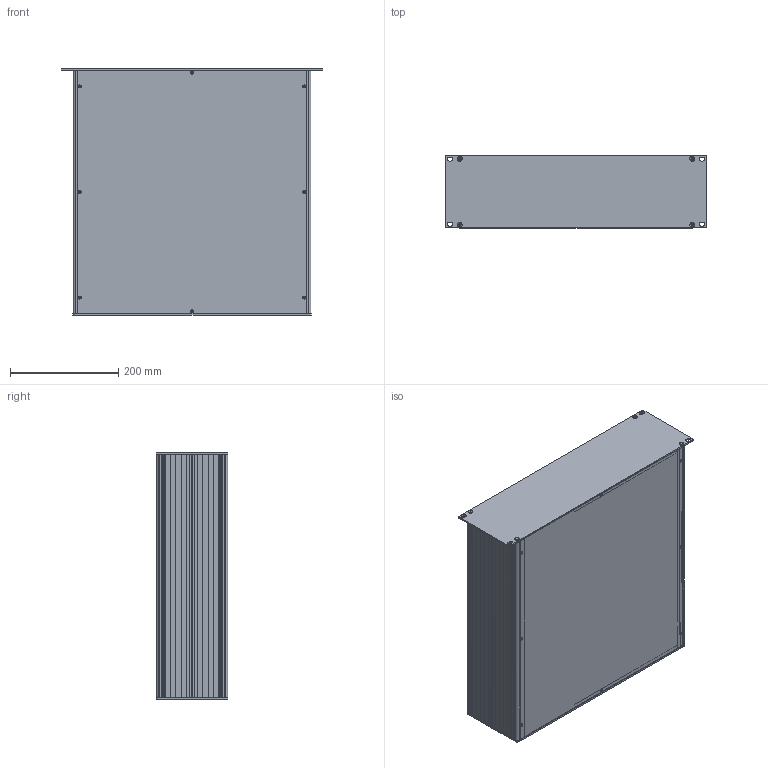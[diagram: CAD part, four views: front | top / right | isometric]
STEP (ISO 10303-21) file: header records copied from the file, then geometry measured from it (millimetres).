
FILE_DESCRIPTION (( 'STEP AP203' ), '1' );
FILE_NAME ('RM-130-45.STEP', '2025-01-27T07:29:52', ( '' ), ( '' ), 'SwSTEP 2.0', 'SolidWorks 2021', '' );
FILE_SCHEMA (( 'CONFIG_CONTROL_DESIGN' ));
Length unit declared in the file: millimetre
Products named in the file (7): Panel_14 cm; 1U_arka_panel; RM-130-45; Panel_1; AP-230_1; AP-230_14 cm; 1U_on_panel
Assembly tree (6 placements, depth 2):
  RM-130-45
    1U_arka_panel
    AP-230_14 cm
    1U_on_panel
    Panel_14 cm
    Panel_1
    AP-230_1
Bounding box: 482.6 x 132.55 x 456 mm (x, y, z)
Volume: 1309651.1 mm3; surface area: 1464369.5 mm2
Topology: 6 solids, 6 shells, 1220 faces, 3592 edges, 2384 vertices
Faces by surface type: plane 740, cylinder 432, cone 48
Entity records: 41845 total; most frequent: CARTESIAN_POINT 7245, ORIENTED_EDGE 7184, DIRECTION 6974, EDGE_CURVE 3592, LINE 2652, VECTOR 2652, VERTEX_POINT 2384, AXIS2_PLACEMENT_3D 2161
